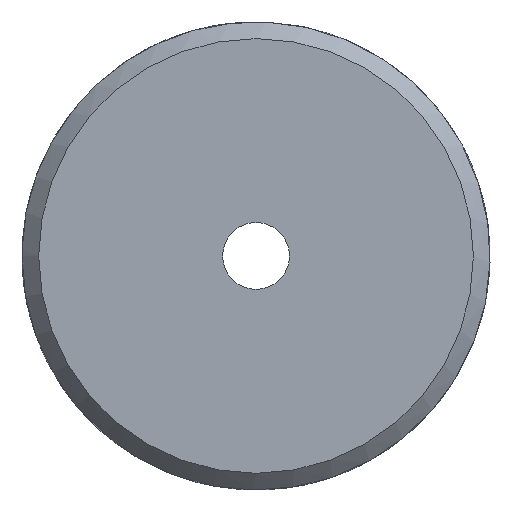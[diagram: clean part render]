
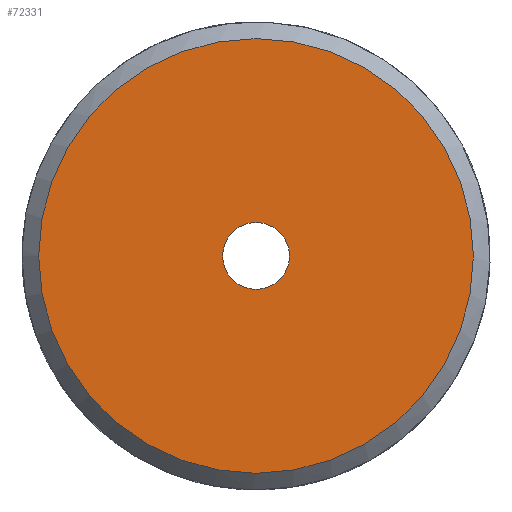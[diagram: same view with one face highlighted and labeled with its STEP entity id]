
A CAD part, left-side view. The second image highlights one B-rep face of the part: STEP entity #72331.
In plain terms, the highlighted planar face has unit normal (-1, 0, 0).
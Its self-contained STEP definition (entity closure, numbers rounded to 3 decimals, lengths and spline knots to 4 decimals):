
#20797=PLANE('',#71411);
#26823=ORIENTED_EDGE('',*,*,#30965,.T.);
#26824=ORIENTED_EDGE('',*,*,#30964,.F.);
#27502=CIRCLE('',#71410,1.);
#27503=CIRCLE('',#71412,6.5);
#28887=VERTEX_POINT('',#70056);
#28888=VERTEX_POINT('',#70059);
#30964=EDGE_CURVE('',#28887,#28887,#27502,.T.);
#30965=EDGE_CURVE('',#28888,#28888,#27503,.T.);
#31664=EDGE_LOOP('',(#26823));
#31665=EDGE_LOOP('',(#26824));
#32366=FACE_BOUND('',#31664,.T.);
#32367=FACE_BOUND('',#31665,.T.);
#35062=DIRECTION('',(-1.,0.,0.));
#35063=DIRECTION('',(0.,0.,1.));
#35064=DIRECTION('',(-1.,0.,0.));
#35065=DIRECTION('',(0.,1.,0.));
#35066=DIRECTION('',(-1.,0.,0.));
#35067=DIRECTION('',(0.,0.,-6.5));
#70056=CARTESIAN_POINT('',(13.1348,170.0754,1.));
#70057=CARTESIAN_POINT('',(13.1348,170.0754,0.));
#70058=CARTESIAN_POINT('',(13.1348,170.0754,-6.5));
#70059=CARTESIAN_POINT('',(13.1348,170.0754,-6.5));
#70060=CARTESIAN_POINT('',(13.1348,170.0754,0.));
#71410=AXIS2_PLACEMENT_3D('',#70057,#35062,#35063);
#71411=AXIS2_PLACEMENT_3D('',#70058,#35064,#35065);
#71412=AXIS2_PLACEMENT_3D('',#70060,#35066,#35067);
#72331=ADVANCED_FACE('',(#32366,#32367),#20797,.T.);
